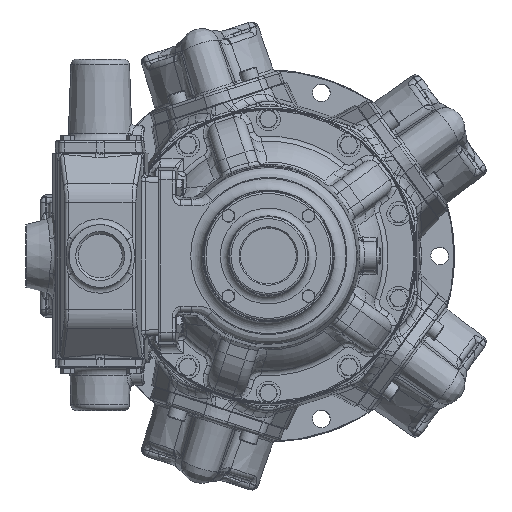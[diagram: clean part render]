
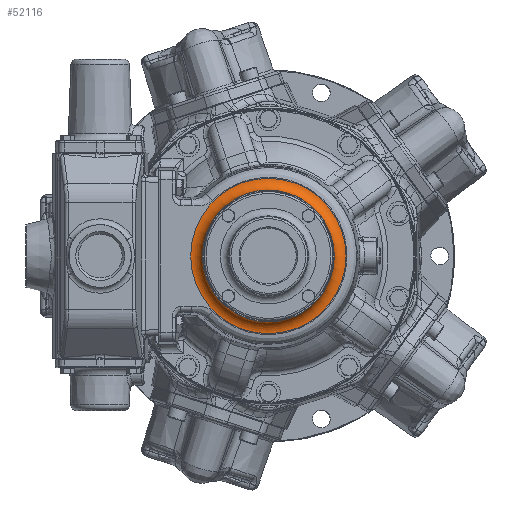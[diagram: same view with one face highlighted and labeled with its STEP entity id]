
A CAD part, left-side view. The second image highlights one B-rep face of the part: STEP entity #52116.
In plain terms, the highlighted toroidal (fillet/blend) face has major radius 79.318 mm and minor radius 12 mm.
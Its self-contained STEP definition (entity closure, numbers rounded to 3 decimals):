
#9278 = EDGE_CURVE ( 'NONE', #35501, #35501, #154240, .T. ) ;
#13081 = VERTEX_POINT ( 'NONE', #167378 ) ;
#13360 = TOROIDAL_SURFACE ( 'NONE', #137307, 79.318, 12. ) ;
#22201 = DIRECTION ( 'NONE',  ( 1., 0., 0. ) ) ;
#23496 = DIRECTION ( 'NONE',  ( 1., 0., 0. ) ) ;
#35081 = DIRECTION ( 'NONE',  ( 0., 0., -1. ) ) ;
#35501 = VERTEX_POINT ( 'NONE', #96258 ) ;
#40310 = DIRECTION ( 'NONE',  ( 0., 0., -1. ) ) ;
#52116 = ADVANCED_FACE ( 'NONE', ( #52324, #192744 ), #13360, .F. ) ;
#52324 = FACE_OUTER_BOUND ( 'NONE', #116918, .T. ) ;
#54780 = ORIENTED_EDGE ( 'NONE', *, *, #9278, .T. ) ;
#59173 = ORIENTED_EDGE ( 'NONE', *, *, #100907, .T. ) ;
#67583 = EDGE_LOOP ( 'NONE', ( #59173 ) ) ;
#89460 = CARTESIAN_POINT ( 'NONE',  ( -290.86, 0., 0. ) ) ;
#96258 = CARTESIAN_POINT ( 'NONE',  ( -302.546, 0., -67.322 ) ) ;
#100907 = EDGE_CURVE ( 'NONE', #13081, #13081, #136313, .T. ) ;
#109519 = AXIS2_PLACEMENT_3D ( 'NONE', #173546, #22201, #35081 ) ;
#116918 = EDGE_LOOP ( 'NONE', ( #54780 ) ) ;
#118395 = DIRECTION ( 'NONE',  ( 0., 0., -1. ) ) ;
#133352 = DIRECTION ( 'NONE',  ( -1., 0., 0. ) ) ;
#136313 = CIRCLE ( 'NONE', #174547, 79.318 ) ;
#137307 = AXIS2_PLACEMENT_3D ( 'NONE', #159876, #23496, #40310 ) ;
#154240 = CIRCLE ( 'NONE', #109519, 67.322 ) ;
#159876 = CARTESIAN_POINT ( 'NONE',  ( -302.86, 0., 0. ) ) ;
#167378 = CARTESIAN_POINT ( 'NONE',  ( -290.86, 0., -79.318 ) ) ;
#173546 = CARTESIAN_POINT ( 'NONE',  ( -302.546, 0., 0. ) ) ;
#174547 = AXIS2_PLACEMENT_3D ( 'NONE', #89460, #133352, #118395 ) ;
#192744 = FACE_OUTER_BOUND ( 'NONE', #67583, .T. ) ;
